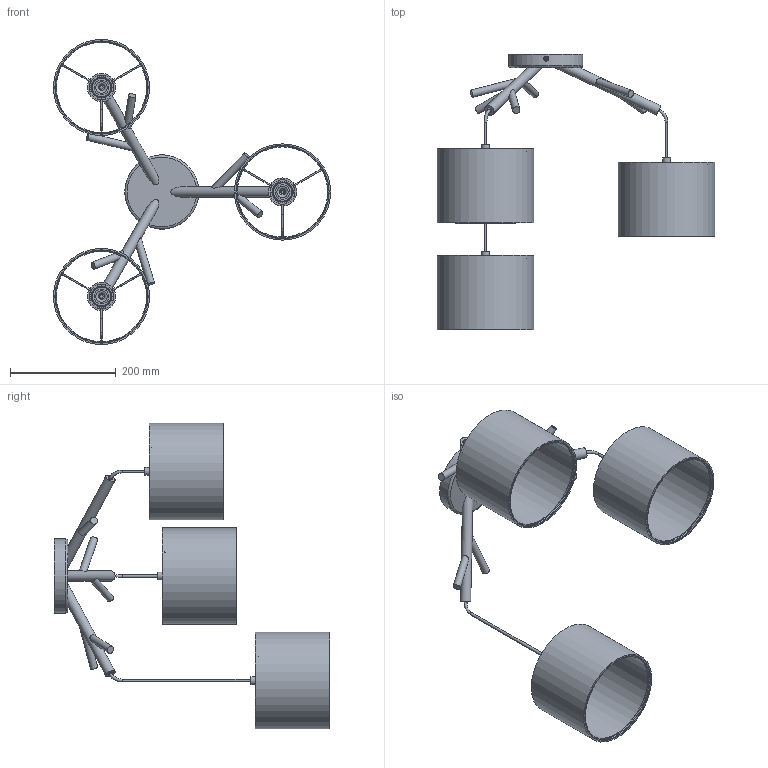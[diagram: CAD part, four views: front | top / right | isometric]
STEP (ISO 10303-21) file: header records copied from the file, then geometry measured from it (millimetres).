
FILE_DESCRIPTION(/* description */ (''),/* implementation_level */ '2;1');
FILE_NAME(/* name */ 'C:/Users/kubaw/OneDrive/Pulpit/Nowy folder (3)/6553_ALBERO WHITE v5.step',/* time_stamp */ '2021-12-11T09:41:10+01:00',/* author */ (''),/* organization */ (''),/* preprocessor_version */ 'ST-DEVELOPER v18.1',/* originating_system */ 'Autodesk Translation Framework v10.10.0.1391',/* authorisation */ '');
FILE_SCHEMA (('AUTOMOTIVE_DESIGN { 1 0 10303 214 3 1 1 }'));
Length unit declared in the file: millimetre
Products named in the file (3): 6553_ALBERO WHITE; MOCOWANIE_ALBERO v7; ŚRUBA_ALBERO
Assembly tree (5 placements, depth 2):
  6553_ALBERO WHITE
    MOCOWANIE_ALBERO v7  x3
    ŚRUBA_ALBERO  x2
Bounding box: 524.3 x 520.07 x 577.25 mm (x, y, z)
Volume: 1498710.7 mm3; surface area: 710924.8 mm2
Topology: 59 solids, 59 shells, 363 faces, 684 edges, 463 vertices
Faces by surface type: cylinder 161, plane 151, torus 28, bspline 23
Full cylindrical faces by diameter (mm): 2.8 x27, 5.6 x6, 7.952 x3, 9.6 x2, 9.8 x3, 10.752 x3, 14 x6, 15.12 x3, 19.6 x3, 27.776 x3, 34.901 x30, 37.632 x3, 40.32 x9, 44.8 x3, 46.2 x3, 46.368 x3, 53.2 x3, 140 x1, 170.8 x6, 176.4 x9, 182 x3
Entity records: 11933 total; most frequent: CARTESIAN_POINT 7266, DIRECTION 1012, ORIENTED_EDGE 816, AXIS2_PLACEMENT_3D 451, EDGE_CURVE 408, VERTEX_POINT 275, EDGE_LOOP 257, FACE_OUTER_BOUND 225
